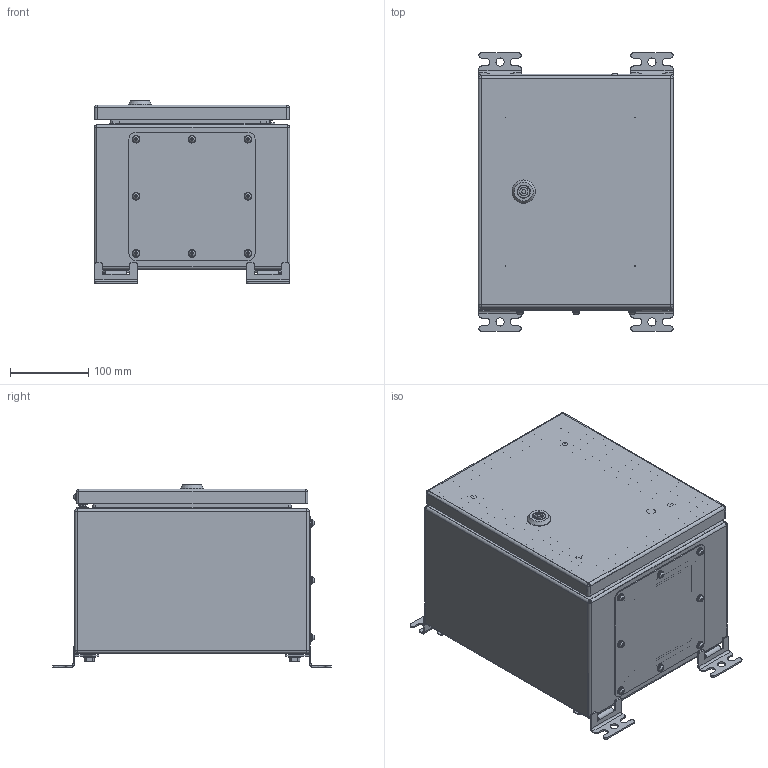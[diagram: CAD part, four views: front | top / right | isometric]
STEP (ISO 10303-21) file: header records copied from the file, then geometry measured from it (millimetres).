
FILE_DESCRIPTION(('STEP AP242'), '1');
FILE_NAME('400 ﾙﾌﾏ-1 (IP-56)', '', ('UNSPECIFIED'), ('UNSPECIFIED'), 'C3D Converter', 'C3D Toolkit', '');
FILE_SCHEMA(('AP242_MANAGED_MODEL_BASED_3D_ENGINEERING_MIM_LF { 1 0 10303 442 1 1 4 }'));
Length unit declared in the file: millimetre
Products named in the file (51): ЩМП-1-ЛФ СБ; 410-ЛФ; 420; 421; 411-Ф; 430-Л; 431-Л; 490; 491; 401.01; 440-Ф; 441-Ф; 402; 403; 450; 451; ЦИУЛ.210677.00.03-03; 452
Assembly tree (132 placements, depth 4):
  ЩМП-1-ЛФ СБ
    410-ЛФ
      420
        421
        (unnamed)  x4
        (unnamed)
      411-Ф
      430-Л
        431-Л
        (unnamed)  x8
    490  x2
      491
      (unnamed)
      (unnamed)
      (unnamed)
      (unnamed)
      (unnamed)
    490  x2
      491
      (unnamed)
      (unnamed)
      (unnamed)
      (unnamed)
      (unnamed)
    401.01
    (unnamed)  x4
    (unnamed)  x4
    (unnamed)  x4
    (unnamed)  x4
    (unnamed)  x2
      (unnamed)
      (unnamed)
      (unnamed)
    (unnamed)  x12
    440-Ф
      441-Ф
      (unnamed)
      (unnamed)  x4
      (unnamed)  x2
    402  x2
    (unnamed)  x4
    (unnamed)  x4
    (unnamed)
      (unnamed)
      (unnamed)
      (unnamed)
      (unnamed)
      (unnamed)
    (unnamed)
    403
    (unnamed)  x8
    (unnamed)  x8
    450
      451
      (unnamed)  x3
      (unnamed)  x2
      (unnamed)  x2
      (unnamed)  x3
      ЦИУЛ.210677.00.03-03
      452
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Bounding box: 250 x 356 x 233.1 mm (x, y, z)
Volume: 955125.8 mm3; surface area: 1133002.4 mm2
Topology: 139 solids, 139 shells, 2462 faces, 5748 edges, 3633 vertices
Faces by surface type: plane 1440, cylinder 651, cone 252, sphere 39, torus 33, extrusion 27, bspline 20
Full cylindrical faces by diameter (mm): 0.5 x4, 2.6 x4, 3.3 x1, 3.5 x28, 4 x1, 4.134 x11, 4.2 x5, 4.917 x4, 5 x16, 5.3 x2, 5.5 x19, 5.75 x3, 5.8 x1, 6 x25, 6.38 x8, 6.4 x12, 6.647 x8, 7 x6, 7.3 x4, 7.4 x1, 7.5 x6, 7.74 x8, 8 x14, 8.376 x4, 8.4 x8, 8.5 x27, 8.7 x8, 9 x12, 10 x18, 10.4 x1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
Entity records: 71157 total; most frequent: CARTESIAN_POINT 36415, DIRECTION 5654, ORIENTED_EDGE 5400, EDGE_CURVE 2700, AXIS2_PLACEMENT_3D 2068, VERTEX_POINT 1814, EDGE_LOOP 1536, VECTOR 1518
